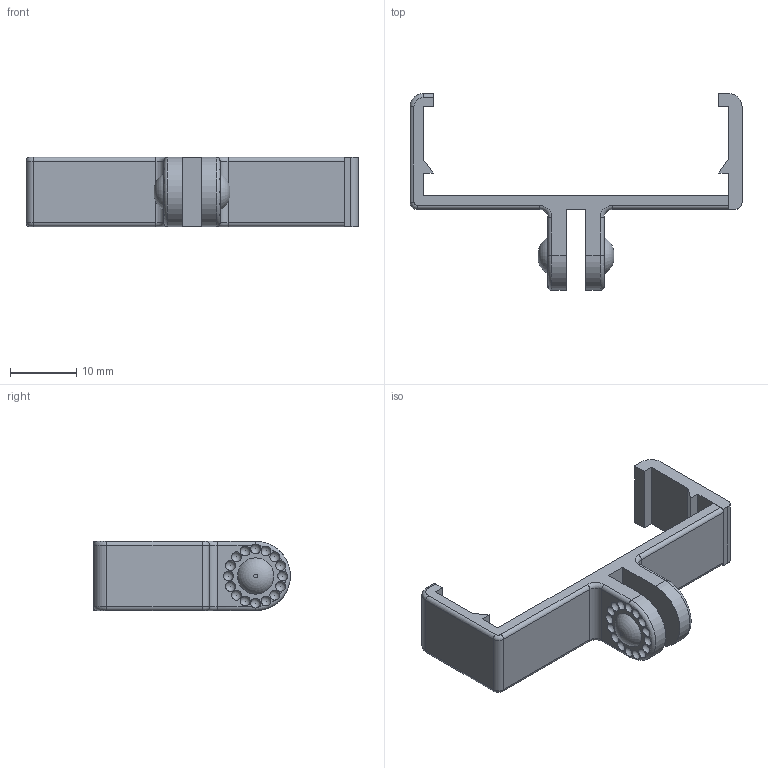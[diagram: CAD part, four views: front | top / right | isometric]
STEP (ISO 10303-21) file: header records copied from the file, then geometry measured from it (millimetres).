
FILE_DESCRIPTION(/* description */ ('Alibre Inc.'),/* implementation_level */ '2;1');
FILE_NAME(/* name */ 'export0',/* time_stamp */ '2018-08-03T14:57:18-04:00',/* author */ (''),/* organization */ (''),/* preprocessor_version */ 'ST-DEVELOPER v17',/* originating_system */ 'Alibre',/* authorisation */ '');
FILE_SCHEMA (('AUTOMOTIVE_DESIGN'));
Length unit declared in the file: millimetre
Bounding box: 50.25 x 29.77 x 10.5 mm (x, y, z)
Volume: 2492.4 mm3; surface area: 2812.3 mm2
Topology: 2 solids, 2 shells, 96 faces, 304 edges, 196 vertices
Faces by surface type: sphere 32, plane 32, cylinder 20, torus 12
Entity records: 3691 total; most frequent: CARTESIAN_POINT 1444, ORIENTED_EDGE 464, DIRECTION 441, EDGE_CURVE 232, AXIS2_PLACEMENT_3D 194, VERTEX_POINT 158, EDGE_LOOP 114, FACE_BOUND 114
